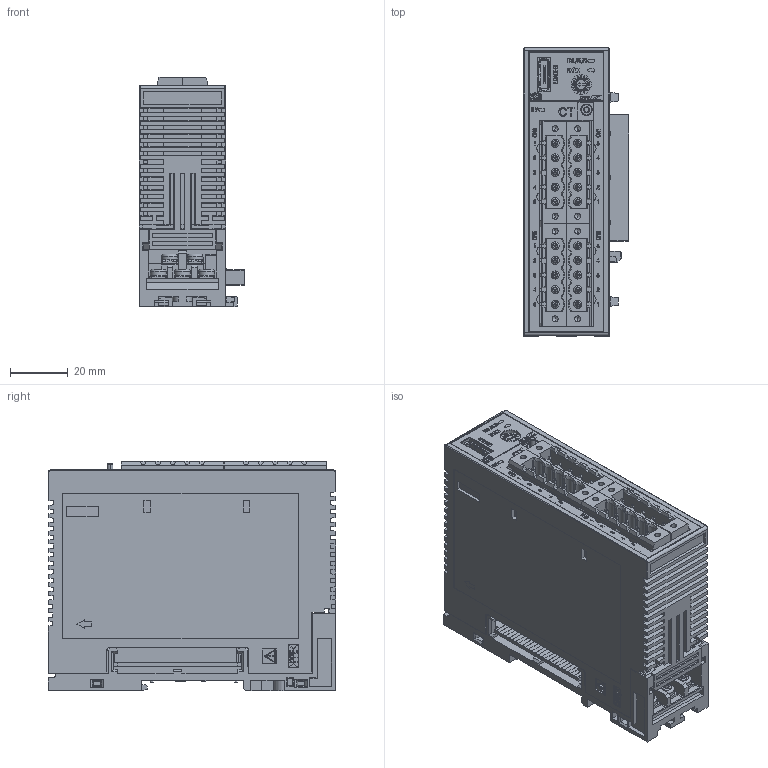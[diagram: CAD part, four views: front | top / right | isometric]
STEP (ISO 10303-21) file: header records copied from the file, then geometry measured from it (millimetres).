
FILE_DESCRIPTION (( 'STEP AP203' ), '1' );
FILE_NAME ('SRZ(Z-CT)_WEB.STEP', '2015-06-05T03:53:43', ( 'a' ), ( 'Microsoft' ), 'SwSTEP 2.0', 'SolidWorks 2014', '' );
FILE_SCHEMA (( 'CONFIG_CONTROL_DESIGN' ));
Products named in the file (1): SRZ(Z-CT)_WEB
Bounding box: 36.65 x 100 x 79.75 mm (x, y, z)
Volume: 158434.3 mm3; surface area: 73073.9 mm2
Topology: 20 solids, 60 shells, 5499 faces, 14424 edges, 9334 vertices
Faces by surface type: plane 4117, bspline 613, cylinder 611, cone 80, torus 58, sphere 20
Entity records: 184947 total; most frequent: CARTESIAN_POINT 53671, ORIENTED_EDGE 28776, DIRECTION 23926, EDGE_CURVE 14388, VECTOR 11552, LINE 11552, VERTEX_POINT 9334, AXIS2_PLACEMENT_3D 6187
